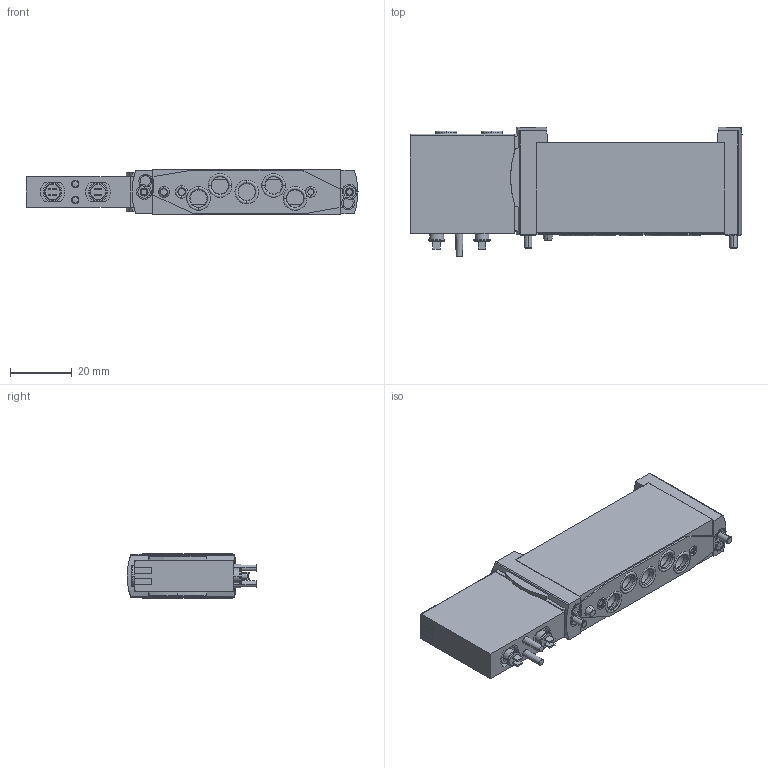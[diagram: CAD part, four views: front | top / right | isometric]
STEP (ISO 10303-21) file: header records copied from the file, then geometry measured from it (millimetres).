
FILE_DESCRIPTION (( 'STEP AP203' ), '1' );
FILE_NAME ('8140412180 FAS-B14-M52-M.STEP', '2024-09-06T05:32:08', ( 'L' ), ( '' ), 'SwSTEP 2.0', 'SolidWorks 2019', '' );
FILE_SCHEMA (( 'CONFIG_CONTROL_DESIGN' ));
Length unit declared in the file: millimetre
Products named in the file (1): 8140412180 FAS-B14-M52-M
Bounding box: 107.45 x 41.89 x 14.4 mm (x, y, z)
Volume: 41279.8 mm3; surface area: 15005.7 mm2
Topology: 4 solids, 8 shells, 529 faces, 1320 edges, 856 vertices
Faces by surface type: plane 274, cylinder 143, cone 56, bspline 48, torus 8
Entity records: 17184 total; most frequent: CARTESIAN_POINT 4313, DIRECTION 2712, ORIENTED_EDGE 2640, EDGE_CURVE 1320, AXIS2_PLACEMENT_3D 987, VERTEX_POINT 856, LINE 738, VECTOR 738
